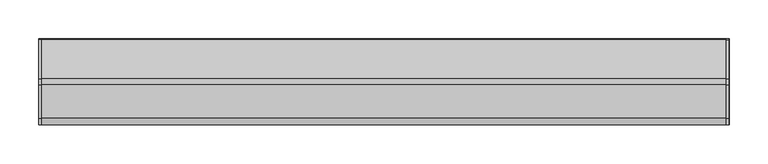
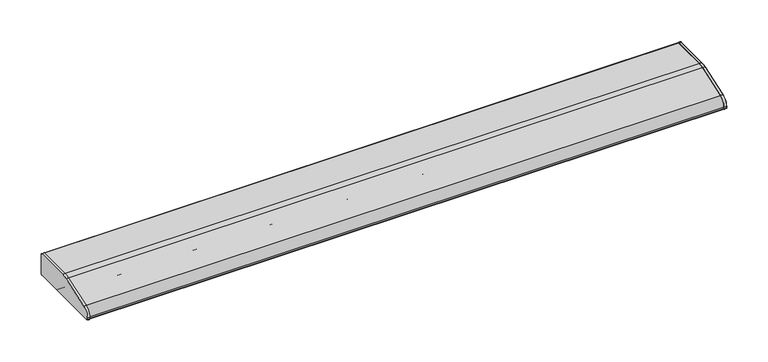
"""IFC4 building model written with IfcOpenShell, lengths in millimetres: light fixture geometry, HermanMiller_SupplementalProducts_G6136_UtilityTaskLight : AO Etho Canvas 42W."""

from ifc_helpers import new_model, si_unit, point, frame, frame_2d, origin, place, context, project, spatial, polyline, circle_curve, trimmed, segment, composite_curve, outline, extrude, source, transform, mapped, element, save


def light_fixture_4650a7c5(model_context):
    return source(origin(), model_context, "Body", "SweptSolid", [
        extrude(outline(composite_curve([segment(polyline([(53.975, 1593.85), (-53.975, 1593.85)]), True, "CONTINUOUS"), segment(trimmed(circle_curve(frame_2d((-53.975, 1595.4375)), 1.5875), [point((-53.975, 1593.85))], [point((-55.5625, 1595.4375))], False, "CARTESIAN"), True, "CONTINUOUS"), segment(polyline([(-55.5625, 1595.4375), (-55.5625, 1597.4785714)]), True, "CONTINUOUS"), segment(trimmed(circle_curve(frame_2d((-42.8625, 1597.4785714)), 12.7), [point((-55.5625, 1597.4785714))], [point((-46.9814189, 1609.4920849))], False, "CARTESIAN"), True, "CONTINUOUS"), segment(polyline([(-46.9814189, 1609.4920849), (-4.0045045, 1624.227027)]), True, "CONTINUOUS"), segment(trimmed(circle_curve(frame_2d((4.2333333, 1600.2)), 25.4), [point((-4.0045045, 1624.227027))], [point((4.2333333, 1625.6))], False, "CARTESIAN"), True, "CONTINUOUS"), segment(polyline([(4.2333333, 1625.6), (53.975, 1625.6)]), True, "CONTINUOUS"), segment(trimmed(circle_curve(frame_2d((53.975, 1624.0125)), 1.5875), [point((53.975, 1625.6))], [point((55.5625, 1624.0125))], False, "CARTESIAN"), True, "CONTINUOUS"), segment(polyline([(55.5625, 1624.0125), (55.5625, 1595.4375)]), True, "CONTINUOUS"), segment(trimmed(circle_curve(frame_2d((53.975, 1595.4375)), 1.5875), [point((55.5625, 1595.4375))], [point((53.975, 1593.85))], False, "CARTESIAN"), True, "CONTINUOUS")], self_intersect=False)), frame((441.833, 0.0, 0.0), z_axis=(1.0, 0.0, 0.0), x_axis=(0.0, 1.0, 0.0)), (0.0, 0.0, 1.0), 3.175),
        extrude(outline(composite_curve([segment(trimmed(circle_curve(frame_2d((53.975, 1624.0125)), 1.5875), [point((53.975, 1625.6))], [point((55.5625, 1624.0125))], False, "CARTESIAN"), True, "CONTINUOUS"), segment(polyline([(55.5625, 1624.0125), (55.5625, 1595.4375)]), True, "CONTINUOUS"), segment(trimmed(circle_curve(frame_2d((53.975, 1595.4375)), 1.5875), [point((55.5625, 1595.4375))], [point((53.975, 1593.85))], False, "CARTESIAN"), True, "CONTINUOUS"), segment(polyline([(53.975, 1593.85), (-53.975, 1593.85)]), True, "CONTINUOUS"), segment(trimmed(circle_curve(frame_2d((-53.975, 1595.4375)), 1.5875), [point((-53.975, 1593.85))], [point((-55.5625, 1595.4375))], False, "CARTESIAN"), True, "CONTINUOUS"), segment(polyline([(-55.5625, 1595.4375), (-55.5625, 1597.4785714)]), True, "CONTINUOUS"), segment(trimmed(circle_curve(frame_2d((-42.8625, 1597.4785714)), 12.7), [point((-55.5625, 1597.4785714))], [point((-46.9814189, 1609.4920849))], False, "CARTESIAN"), True, "CONTINUOUS"), segment(polyline([(-46.9814189, 1609.4920849), (-4.0045045, 1624.227027)]), True, "CONTINUOUS"), segment(trimmed(circle_curve(frame_2d((4.2333333, 1600.2)), 25.4), [point((-4.0045045, 1624.227027))], [point((4.2333333, 1625.6))], False, "CARTESIAN"), True, "CONTINUOUS"), segment(polyline([(4.2333333, 1625.6), (53.975, 1625.6)]), True, "CONTINUOUS")], self_intersect=False)), frame((-445.008, 0.0, 0.0), z_axis=(1.0, 0.0, 0.0), x_axis=(0.0, 1.0, 0.0)), (0.0, 0.0, 1.0), 3.175),
        extrude(outline(composite_curve([segment(polyline([(55.5625, 1624.0125), (55.5625, 1595.4375)]), True, "CONTINUOUS"), segment(trimmed(circle_curve(frame_2d((53.975, 1595.4375)), 1.5875), [point((55.5625, 1595.4375))], [point((53.975, 1593.85))], False, "CARTESIAN"), True, "CONTINUOUS"), segment(polyline([(53.975, 1593.85), (19.05, 1593.85)]), True, "CONTINUOUS"), segment(trimmed(circle_curve(frame_2d((19.05, 1595.4375)), 1.5875), [point((19.05, 1593.85))], [point((17.4625, 1595.4375))], False, "CARTESIAN"), True, "CONTINUOUS"), segment(polyline([(17.4625, 1595.4375), (17.4625, 1624.0125), (4.4979167, 1624.0125)]), True, "CONTINUOUS"), segment(trimmed(circle_curve(frame_2d((4.4979167, 1598.6125)), 25.4), [point((4.4979167, 1624.0125))], [point((-3.7399212, 1622.639527))], True, "CARTESIAN"), True, "CONTINUOUS"), segment(polyline([(-3.7399212, 1622.639527), (-37.4564189, 1611.0795849)]), True, "CONTINUOUS"), segment(trimmed(circle_curve(frame_2d((-33.3375, 1599.0660714)), 12.7), [point((-37.4564189, 1611.0795849))], [point((-46.0375, 1599.0660714))], True, "CARTESIAN"), True, "CONTINUOUS"), segment(polyline([(-46.0375, 1599.0660714), (-46.0375, 1595.4375)]), True, "CONTINUOUS"), segment(trimmed(circle_curve(frame_2d((-47.625, 1595.4375)), 1.5875), [point((-46.0375, 1595.4375))], [point((-47.625, 1593.85))], False, "CARTESIAN"), True, "CONTINUOUS"), segment(polyline([(-47.625, 1593.85), (-53.975, 1593.85)]), True, "CONTINUOUS"), segment(trimmed(circle_curve(frame_2d((-53.975, 1595.4375)), 1.5875), [point((-53.975, 1593.85))], [point((-55.5625, 1595.4375))], False, "CARTESIAN"), True, "CONTINUOUS"), segment(polyline([(-55.5625, 1595.4375), (-55.5625, 1597.4785714)]), True, "CONTINUOUS"), segment(trimmed(circle_curve(frame_2d((-42.8625, 1597.4785714)), 12.7), [point((-55.5625, 1597.4785714))], [point((-46.9814189, 1609.4920849))], False, "CARTESIAN"), True, "CONTINUOUS"), segment(polyline([(-46.9814189, 1609.4920849), (-4.0045045, 1624.227027)]), True, "CONTINUOUS"), segment(trimmed(circle_curve(frame_2d((4.2333333, 1600.2)), 25.4), [point((-4.0045045, 1624.227027))], [point((4.2333333, 1625.6))], False, "CARTESIAN"), True, "CONTINUOUS"), segment(polyline([(4.2333333, 1625.6), (53.975, 1625.6)]), True, "CONTINUOUS"), segment(trimmed(circle_curve(frame_2d((53.975, 1624.0125)), 1.5875), [point((53.975, 1625.6))], [point((55.5625, 1624.0125))], False, "CARTESIAN"), True, "CONTINUOUS")], self_intersect=False)), frame((-445.008, 0.0, 0.0), z_axis=(1.0, 0.0, 0.0), x_axis=(0.0, 1.0, 0.0)), (0.0, 0.0, 1.0), 890.4820011),
        extrude(outline(composite_curve([segment(trimmed(circle_curve(frame_2d((1.5875, 1611.3125)), 9.525), [point((-7.9375, 1611.3125))], [point((11.1125, 1611.3125))], False, "CARTESIAN"), True, "CONTINUOUS"), segment(trimmed(circle_curve(frame_2d((1.5875, 1611.3125)), 9.525), [point((11.1125, 1611.3125))], [point((-7.9375, 1611.3125))], False, "CARTESIAN"), True, "CONTINUOUS")], self_intersect=False)), frame((419.608, 0.0, 0.0), z_axis=(1.0, 0.0, 0.0), x_axis=(0.0, 1.0, 0.0)), (0.0, 0.0, 1.0), 12.7),
        extrude(outline(composite_curve([segment(trimmed(circle_curve(frame_2d((1.5875, 1611.3125)), 9.525), [point((-7.9375, 1611.3125))], [point((11.1125, 1611.3125))], False, "CARTESIAN"), True, "CONTINUOUS"), segment(trimmed(circle_curve(frame_2d((1.5875, 1611.3125)), 9.525), [point((11.1125, 1611.3125))], [point((-7.9375, 1611.3125))], False, "CARTESIAN"), True, "CONTINUOUS")], self_intersect=False)), frame((-432.308, 0.0, 0.0), z_axis=(1.0, 0.0, 0.0), x_axis=(0.0, 1.0, 0.0)), (0.0, 0.0, 1.0), 12.7),
        extrude(outline(composite_curve([segment(trimmed(circle_curve(frame_2d((1.5875, 1611.3125)), 9.525), [point((-7.9375, 1611.3125))], [point((11.1125, 1611.3125))], False, "CARTESIAN"), True, "CONTINUOUS"), segment(trimmed(circle_curve(frame_2d((1.5875, 1611.3125)), 9.525), [point((11.1125, 1611.3125))], [point((-7.9375, 1611.3125))], False, "CARTESIAN"), True, "CONTINUOUS")], self_intersect=False)), frame((-419.608, 0.0, 0.0), z_axis=(1.0, 0.0, 0.0), x_axis=(0.0, 1.0, 0.0)), (0.0, 0.0, 1.0), 839.216),
        extrude(outline(composite_curve([segment(polyline([(17.4625, 1597.025), (-46.0375, 1597.025), (-46.0375, 1599.0660714)]), True, "CONTINUOUS"), segment(trimmed(circle_curve(frame_2d((-33.3375, 1599.0660714)), 12.7), [point((-46.0375, 1599.0660714))], [point((-37.4564189, 1611.0795849))], False, "CARTESIAN"), True, "CONTINUOUS"), segment(polyline([(-37.4564189, 1611.0795849), (-3.7399212, 1622.639527)]), True, "CONTINUOUS"), segment(trimmed(circle_curve(frame_2d((4.4979167, 1598.6125)), 25.4), [point((-3.7399212, 1622.639527))], [point((4.4979167, 1624.0125))], False, "CARTESIAN"), True, "CONTINUOUS"), segment(polyline([(4.4979167, 1624.0125), (17.4625, 1624.0125), (17.4625, 1597.025)]), True, "CONTINUOUS")], self_intersect=False)), frame((432.308, 0.0, 0.0), z_axis=(1.0, 0.0, 0.0), x_axis=(0.0, 1.0, 0.0)), (0.0, 0.0, 1.0), 9.525),
        extrude(outline(composite_curve([segment(polyline([(17.4625, 1597.025), (-46.0375, 1597.025), (-46.0375, 1599.0660714)]), True, "CONTINUOUS"), segment(trimmed(circle_curve(frame_2d((-33.3375, 1599.0660714)), 12.7), [point((-46.0375, 1599.0660714))], [point((-37.4564189, 1611.0795849))], False, "CARTESIAN"), True, "CONTINUOUS"), segment(polyline([(-37.4564189, 1611.0795849), (-3.7399212, 1622.639527)]), True, "CONTINUOUS"), segment(trimmed(circle_curve(frame_2d((4.4979167, 1598.6125)), 25.4), [point((-3.7399212, 1622.639527))], [point((4.4979167, 1624.0125))], False, "CARTESIAN"), True, "CONTINUOUS"), segment(polyline([(4.4979167, 1624.0125), (17.4625, 1624.0125), (17.4625, 1597.025)]), True, "CONTINUOUS")], self_intersect=False)), frame((-441.833, 0.0, 0.0), z_axis=(1.0, 0.0, 0.0), x_axis=(0.0, 1.0, 0.0)), (0.0, 0.0, 1.0), 9.525),
    ])


if __name__ == "__main__":
    model = new_model("IFC4")
    model_context = context("Model", 3, world=origin())
    ifc_project = project(units=[si_unit("LENGTHUNIT", "METRE", prefix="MILLI")], contexts=[model_context])
    site = spatial("IfcSite", under=ifc_project)
    building = spatial("IfcBuilding", under=site)
    placement = place(None, origin())
    light_fixture_shape = light_fixture_4650a7c5(model_context)
    element("IfcLightFixture", 1, ObjectType="HermanMiller_SupplementalProducts_G6136_UtilityTaskLight : AO Etho Canvas 42W", at=placement, inside=building, context=model_context, shape_type="MappedRepresentation", body=[
        mapped(light_fixture_shape, transform((0.0, 0.0, 0.0), x_axis=(1.0, 0.0, 0.0), y_axis=(0.0, 1.0, 0.0), z_axis=(0.0, 0.0, 1.0))),
    ])
    save(model, "model.ifc")
